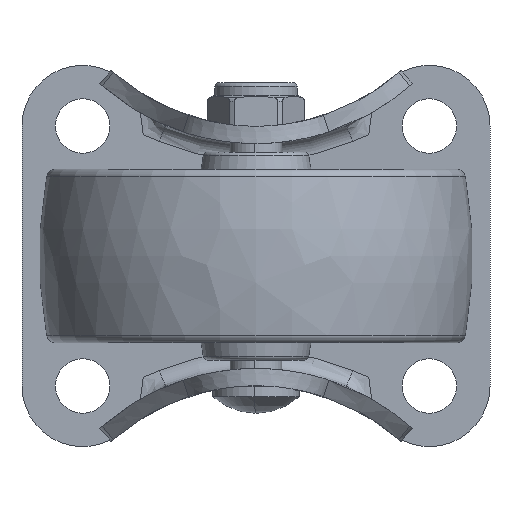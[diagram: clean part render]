
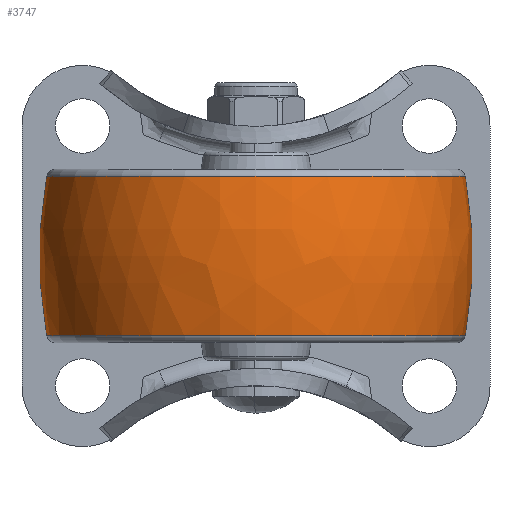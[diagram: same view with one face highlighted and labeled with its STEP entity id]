
A CAD part, front view. The second image highlights one B-rep face of the part: STEP entity #3747.
In plain terms, the highlighted free-form (B-spline) face has degree [3, 3] with [7, 4] control points.
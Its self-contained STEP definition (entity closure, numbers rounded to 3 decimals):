
#3373=CARTESIAN_POINT('',(0.,-25.,0.));
#3374=DIRECTION('',(0.,0.,1.));
#3375=DIRECTION('',(0.184,0.983,0.));
#3376=AXIS2_PLACEMENT_3D('',#3373,#3374,#3375);
#3378=CARTESIAN_POINT('',(0.,25.,0.));
#3379=DIRECTION('',(0.,0.,-1.));
#3380=DIRECTION('',(0.184,-0.983,0.));
#3381=AXIS2_PLACEMENT_3D('',#3378,#3379,#3380);
#3383=CARTESIAN_POINT('',(9.184,0.,0.));
#3384=DIRECTION('',(-1.,0.,0.));
#3385=DIRECTION('',(0.,1.,0.));
#3386=AXIS2_PLACEMENT_3D('',#3383,#3384,#3385);
#3408=CARTESIAN_POINT('',(-9.184,0.,0.));
#3409=DIRECTION('',(-1.,0.,0.));
#3410=DIRECTION('',(0.,1.,0.));
#3411=AXIS2_PLACEMENT_3D('',#3408,#3409,#3410);
#3548=CARTESIAN_POINT('',(9.184,24.149,0.));
#3550=VERTEX_POINT('',#3548);
#3551=CARTESIAN_POINT('',(-9.184,24.149,0.));
#3552=VERTEX_POINT('',#3551);
#3556=CARTESIAN_POINT('',(9.184,-24.149,0.));
#3558=VERTEX_POINT('',#3556);
#3559=CARTESIAN_POINT('',(-9.184,-24.149,0.));
#3560=VERTEX_POINT('',#3559);
#3709=CARTESIAN_POINT('',(-9.547,-24.033,
1.512));
#3710=CARTESIAN_POINT('',(-3.222,-25.26,
1.589));
#3711=CARTESIAN_POINT('',(3.222,-25.26,1.589));
#3712=CARTESIAN_POINT('',(9.547,-24.033,1.512));
#3713=CARTESIAN_POINT('',(-9.547,-24.963,
-13.278));
#3714=CARTESIAN_POINT('',(-3.222,-26.238,
-13.956));
#3715=CARTESIAN_POINT('',(3.222,-26.238,
-13.956));
#3716=CARTESIAN_POINT('',(9.547,-24.963,
-13.278));
#3717=CARTESIAN_POINT('',(-9.547,-14.819,
-24.08));
#3718=CARTESIAN_POINT('',(-3.222,-15.576,
-25.31));
#3719=CARTESIAN_POINT('',(3.222,-15.576,
-25.31));
#3720=CARTESIAN_POINT('',(9.547,-14.819,
-24.08));
#3721=CARTESIAN_POINT('',(-9.547,0.,-24.08));
#3722=CARTESIAN_POINT('',(-3.222,0.,-25.31));
#3723=CARTESIAN_POINT('',(3.222,0.,-25.31));
#3724=CARTESIAN_POINT('',(9.547,0.,-24.08));
#3725=CARTESIAN_POINT('',(-9.547,14.819,
-24.08));
#3726=CARTESIAN_POINT('',(-3.222,15.576,
-25.31));
#3727=CARTESIAN_POINT('',(3.222,15.576,-25.31));
#3728=CARTESIAN_POINT('',(9.547,14.819,-24.08));
#3729=CARTESIAN_POINT('',(-9.547,24.963,
-13.278));
#3730=CARTESIAN_POINT('',(-3.222,26.238,
-13.956));
#3731=CARTESIAN_POINT('',(3.222,26.238,-13.956));
#3732=CARTESIAN_POINT('',(9.547,24.963,-13.278));
#3733=CARTESIAN_POINT('',(-9.547,24.033,1.512));
#3734=CARTESIAN_POINT('',(-3.222,25.26,1.589));
#3735=CARTESIAN_POINT('',(3.222,25.26,1.589));
#3736=CARTESIAN_POINT('',(9.547,24.033,1.512));
#3737=(BOUNDED_SURFACE()B_SPLINE_SURFACE(3,3,((#3709,#3710,#3711,#3712),(#3713,
#3714,#3715,#3716),(#3717,#3718,#3719,#3720),(#3721,#3722,#3723,#3724),(#3725,
#3726,#3727,#3728),(#3729,#3730,#3731,#3732),(#3733,#3734,#3735,#3736)),
.UNSPECIFIED.,.F.,.F.,.F.)B_SPLINE_SURFACE_WITH_KNOTS((4,3,4),(4,4),(0.,1.,
2.),(0.,1.),.UNSPECIFIED.)GEOMETRIC_REPRESENTATION_ITEM()RATIONAL_B_SPLINE_SURFACE(((1.198,1.184,1.184,1.198),(
0.946,0.935,0.935,0.946),(
0.946,0.935,0.935,0.946),(
1.198,1.184,1.184,1.198),(
0.946,0.935,0.935,0.946),(
0.946,0.935,0.935,0.946),(
1.198,1.184,1.184,1.198)))REPRESENTATION_ITEM('')SURFACE());
#3739=ORIENTED_EDGE('',*,*,#3738,.T.);
#3741=ORIENTED_EDGE('',*,*,#3740,.T.);
#3743=ORIENTED_EDGE('',*,*,#3742,.F.);
#3744=ORIENTED_EDGE('',*,*,#3702,.F.);
#3745=EDGE_LOOP('',(#3739,#3741,#3743,#3744));
#3746=FACE_OUTER_BOUND('',#3745,.F.);
#3377=CIRCLE('',#3376,50.);
#3382=CIRCLE('',#3381,50.);
#3387=CIRCLE('',#3386,24.149);
#3412=CIRCLE('',#3411,24.149);
#3702=EDGE_CURVE('',#3550,#3558,#3387,.T.);
#3738=EDGE_CURVE('',#3550,#3552,#3377,.T.);
#3740=EDGE_CURVE('',#3552,#3560,#3412,.T.);
#3742=EDGE_CURVE('',#3558,#3560,#3382,.T.);
#3747=ADVANCED_FACE('',(#3746),#3737,.T.);
